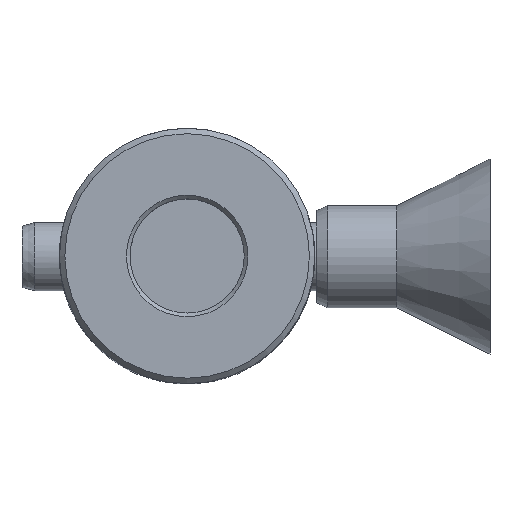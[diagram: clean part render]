
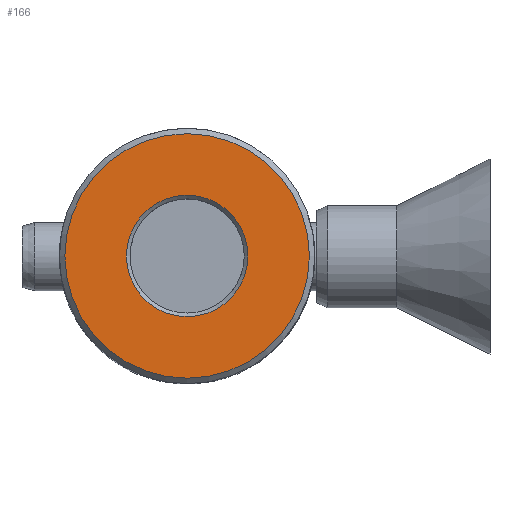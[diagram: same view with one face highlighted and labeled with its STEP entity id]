
A CAD part, top view. The second image highlights one B-rep face of the part: STEP entity #166.
In plain terms, the highlighted planar face has unit normal (0, 0, 1).
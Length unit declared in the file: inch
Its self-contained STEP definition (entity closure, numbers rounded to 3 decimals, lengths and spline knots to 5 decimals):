
#135=CARTESIAN_POINT('',(35.02628,-12.74861,-5.084));
#136=VERTEX_POINT('',#135);
#137=CARTESIAN_POINT('',(35.02628,-12.07861,-5.084));
#138=DIRECTION('',(0.0,0.0,-1.0));
#139=DIRECTION('',(0.0,1.0,0.0));
#140=AXIS2_PLACEMENT_3D('',#137,#138,#139);
#141=CIRCLE('',#140,0.67);
#142=EDGE_CURVE('',#136,#136,#141,.T.);
#147=CARTESIAN_POINT('',(35.02628,-12.07861,-5.084));
#148=DIRECTION('',(0.0,0.0,1.0));
#149=DIRECTION('',(0.0,-1.0,0.0));
#150=AXIS2_PLACEMENT_3D('',#147,#148,#149);
#151=PLANE('',#150);
#152=ORIENTED_EDGE('',*,*,#142,.F.);
#153=EDGE_LOOP('',(#152));
#154=FACE_OUTER_BOUND('',#153,.T.);
#155=CARTESIAN_POINT('',(35.02628,-12.41161,-5.084));
#156=VERTEX_POINT('',#155);
#157=CARTESIAN_POINT('',(35.02628,-12.07861,-5.084));
#158=DIRECTION('',(0.0,0.0,1.0));
#159=DIRECTION('',(0.0,1.0,0.0));
#160=AXIS2_PLACEMENT_3D('',#157,#158,#159);
#161=CIRCLE('',#160,0.333);
#162=EDGE_CURVE('',#156,#156,#161,.T.);
#163=ORIENTED_EDGE('',*,*,#162,.F.);
#164=EDGE_LOOP('',(#163));
#165=FACE_BOUND('',#164,.T.);
#166=ADVANCED_FACE('',(#154,#165),#151,.T.);
